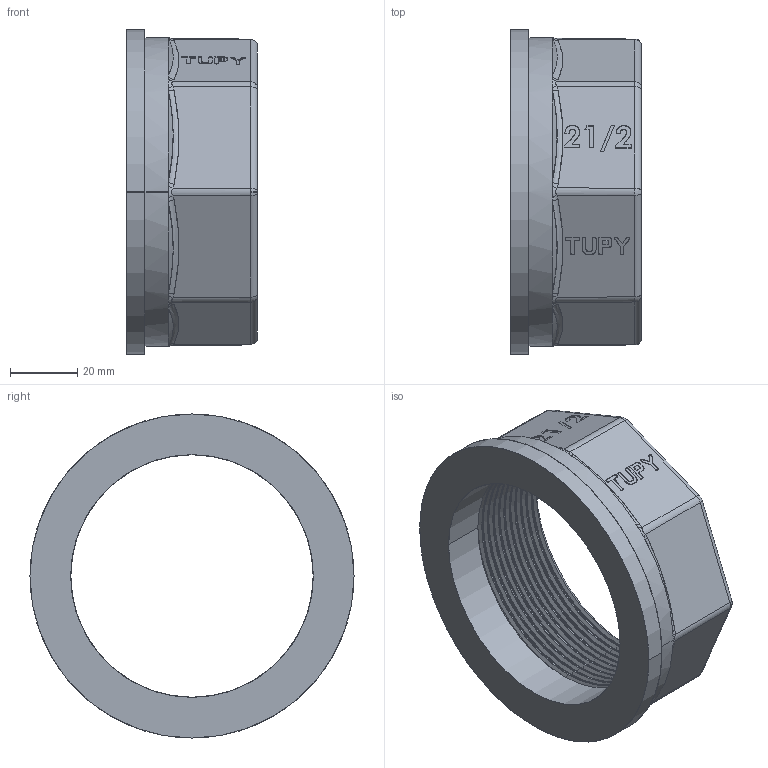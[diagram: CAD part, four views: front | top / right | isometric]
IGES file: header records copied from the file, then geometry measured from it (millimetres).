
Start section: SolidWorks IGES file using analytic representation for surfaces
Global section: file name: C:\Users\Joel Rosa\Desktop\Tubulação\12-83-OK\12-83-011.IGS; native system: SolidWorks 2011; preprocessor: SolidWorks 2011; author: Joel Rosa; date: 131217.001618; units: millimetre
Bounding box: 39 x 96.5 x 96.5 mm (x, y, z)
Surface area: 29783.6 mm2 (no closed solid volume)
Topology: 0 solids, 0 shells, 300 faces, 2587 edges, 2587 vertices
Faces by surface type: bspline 223, revolution 77
